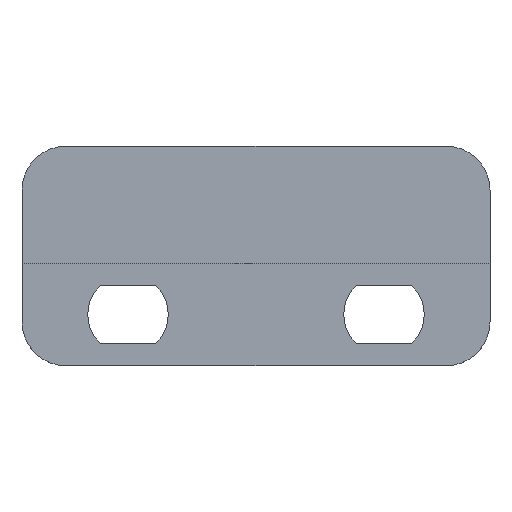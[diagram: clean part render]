
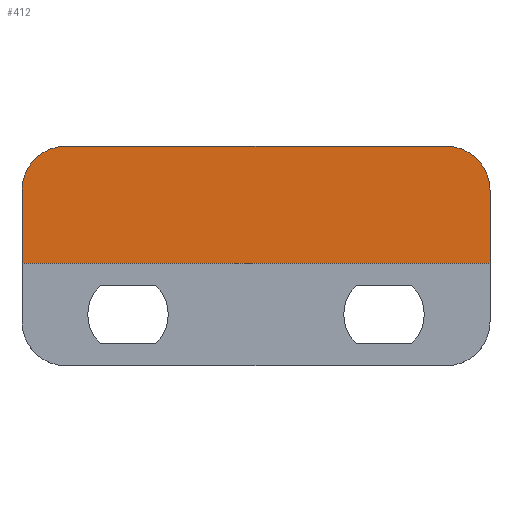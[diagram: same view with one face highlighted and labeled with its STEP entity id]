
A CAD part, top view. The second image highlights one B-rep face of the part: STEP entity #412.
In plain terms, the highlighted planar face has unit normal (0, 0, 1).
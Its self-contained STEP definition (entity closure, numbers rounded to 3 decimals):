
#329=CARTESIAN_POINT('',(16.0,-0.5,6.8));
#330=VERTEX_POINT('',#329);
#331=CARTESIAN_POINT('',(-16.0,-0.5,6.8));
#332=VERTEX_POINT('',#331);
#333=CARTESIAN_POINT('',(16.0,-0.5,6.8));
#334=DIRECTION('',(-1.0,0.0,0.0));
#335=VECTOR('',#334,32.0);
#336=LINE('',#333,#335);
#337=EDGE_CURVE('',#330,#332,#336,.T.);
#364=CARTESIAN_POINT('',(0.,3.346,6.8));
#365=DIRECTION('',(0.0,0.0,1.0));
#366=DIRECTION('',(1.0,0.0,0.0));
#367=AXIS2_PLACEMENT_3D('',#364,#365,#366);
#368=PLANE('',#367);
#369=CARTESIAN_POINT('',(-13.,7.5,6.8));
#370=VERTEX_POINT('',#369);
#371=CARTESIAN_POINT('',(13.0,7.5,6.8));
#372=VERTEX_POINT('',#371);
#373=CARTESIAN_POINT('',(-13.,7.5,6.8));
#374=DIRECTION('',(1.0,0.0,0.0));
#375=VECTOR('',#374,26.);
#376=LINE('',#373,#375);
#377=EDGE_CURVE('',#370,#372,#376,.T.);
#378=ORIENTED_EDGE('',*,*,#377,.F.);
#379=CARTESIAN_POINT('',(-16.0,4.5,6.8));
#380=VERTEX_POINT('',#379);
#381=CARTESIAN_POINT('',(-13.,4.5,6.8));
#382=DIRECTION('',(0.0,0.0,-1.0));
#383=DIRECTION('',(0.0,1.0,0.0));
#384=AXIS2_PLACEMENT_3D('',#381,#382,#383);
#385=CIRCLE('',#384,3.);
#386=EDGE_CURVE('',#380,#370,#385,.T.);
#387=ORIENTED_EDGE('',*,*,#386,.F.);
#388=CARTESIAN_POINT('',(-16.0,-0.5,6.8));
#389=DIRECTION('',(0.0,1.0,0.0));
#390=VECTOR('',#389,5.);
#391=LINE('',#388,#390);
#392=EDGE_CURVE('',#332,#380,#391,.T.);
#393=ORIENTED_EDGE('',*,*,#392,.F.);
#394=ORIENTED_EDGE('',*,*,#337,.F.);
#395=CARTESIAN_POINT('',(16.0,4.5,6.8));
#396=VERTEX_POINT('',#395);
#397=CARTESIAN_POINT('',(16.0,4.5,6.8));
#398=DIRECTION('',(0.0,-1.0,0.0));
#399=VECTOR('',#398,5.);
#400=LINE('',#397,#399);
#401=EDGE_CURVE('',#396,#330,#400,.T.);
#402=ORIENTED_EDGE('',*,*,#401,.F.);
#403=CARTESIAN_POINT('',(13.0,4.5,6.8));
#404=DIRECTION('',(0.0,0.0,-1.0));
#405=DIRECTION('',(1.0,0.0,0.0));
#406=AXIS2_PLACEMENT_3D('',#403,#404,#405);
#407=CIRCLE('',#406,3.);
#408=EDGE_CURVE('',#372,#396,#407,.T.);
#409=ORIENTED_EDGE('',*,*,#408,.F.);
#410=EDGE_LOOP('',(#378,#387,#393,#394,#402,#409));
#411=FACE_OUTER_BOUND('',#410,.T.);
#412=ADVANCED_FACE('',(#411),#368,.T.);
